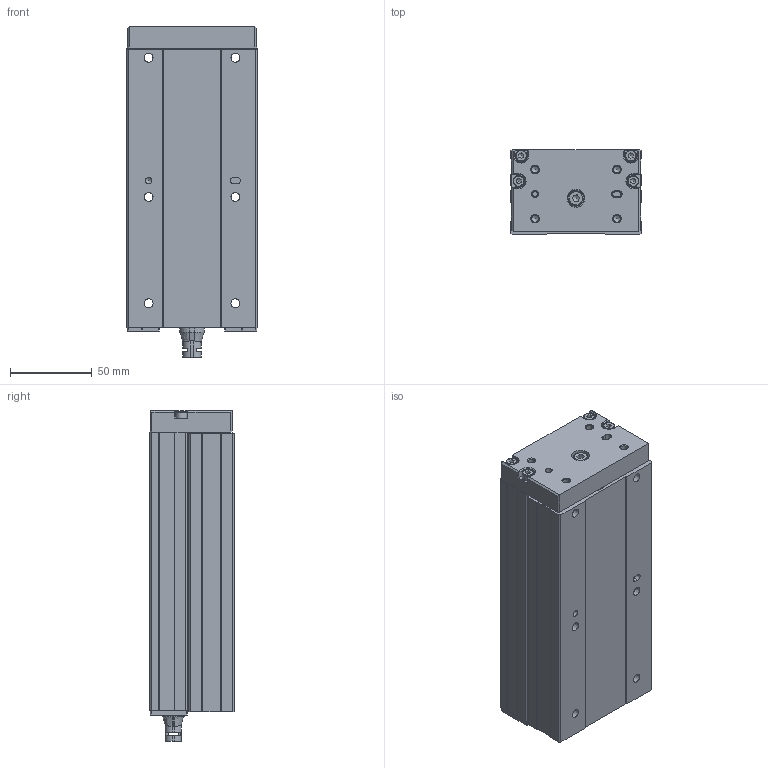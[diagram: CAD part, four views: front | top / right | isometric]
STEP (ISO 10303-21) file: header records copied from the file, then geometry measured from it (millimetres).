
FILE_DESCRIPTION((''),'2;1');
FILE_NAME('C:\Users\RD_15\Desktop\DMG40-100-3D外型.stp','2020-10-20T14:35:44',('RD_15'),(''),'Autodesk Inventor 2013','Autodesk Inventor 2013','');
FILE_SCHEMA(('AUTOMOTIVE_DESIGN { 1 0 10303 214 1 1 1 1 }'));
Length unit declared in the file: millimetre
Products named in the file (65): DMG40-100-3D外型; DMG40-100本體; 零件4964; 零件4958; 組合29; 零件4774; 零件4782; 零件4804; 零件4806; 零件4808; 零件4810; 零件4812; 零件4814; 零件4816; 零件4820; 組合61; 零件4776; 零件4778; 零件4784; 零件4786; 零件4788; 零件4790; 零件4792; 零件4796; 零件4798; 零件4800; 零件4926; 零件4928; 零件4930; 零件4932; 零件4936; 零件4938; 零件4940; 零件4942; 組合31; 零件4738; 零件4842; 零件4844; 零件4846; 零件4848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
Assembly tree (66 placements, depth 3):
  DMG40-100-3D外型
    DMG40-100本體
    零件4964
    零件4958
    組合29
      零件4774
      零件4782
      零件4804
      零件4806
      零件4808
      零件4810
      零件4812
      零件4814
      零件4816
      零件4820
    組合61
      零件4776
      零件4778
      零件4784
      零件4786
      零件4788
      零件4790
      零件4792
      零件4796
      零件4798
      零件4800
      零件4926
      零件4928
      零件4930
      零件4932
      零件4936
      零件4938
      零件4940
      零件4942
    組合31
      零件4738
      零件4842
      零件4844
      零件4846
      零件4848
      零件4850
      零件4852
      零件4854
      零件4856
      零件4858
      零件4860
      零件4862
      零件4864
      零件4866
      零件4868  x3
      零件4870
      零件4872
      零件4874
      零件4876
      零件4878
      零件4880
      零件4882
      零件4946
      零件4948
      零件4950
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Bounding box: 80 x 52 x 202 mm (x, y, z)
Volume: 679095.5 mm3; surface area: 148461.3 mm2
Topology: 63 solids, 66 shells, 3011 faces, 7939 edges, 5133 vertices
Faces by surface type: plane 1981, cylinder 433, cone 413, torus 118, bspline 52, sphere 14
Full cylindrical faces by diameter (mm): 1 x4, 1.783 x8, 2 x8, 2.224 x8, 2.459 x4, 2.5 x8, 3 x16, 3.242 x4, 3.5 x5, 4 x7, 4.059 x4, 4.134 x8, 4.5 x4, 4.7 x8, 5 x1, 5.1 x2, 5.3 x2, 5.4 x6, 5.54 x4, 5.6 x2, 5.9 x2, 6.2 x2, 7 x4, 8 x1, 8.5 x1, 9 x13, 10 x2, 10.3 x1, 11 x2, 12.8 x1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
Entity records: 98968 total; most frequent: CARTESIAN_POINT 24733, ORIENTED_EDGE 14686, DIRECTION 14636, EDGE_CURVE 7343, VECTOR 5316, LINE 5316, VERTEX_POINT 4947, AXIS2_PLACEMENT_3D 4660
